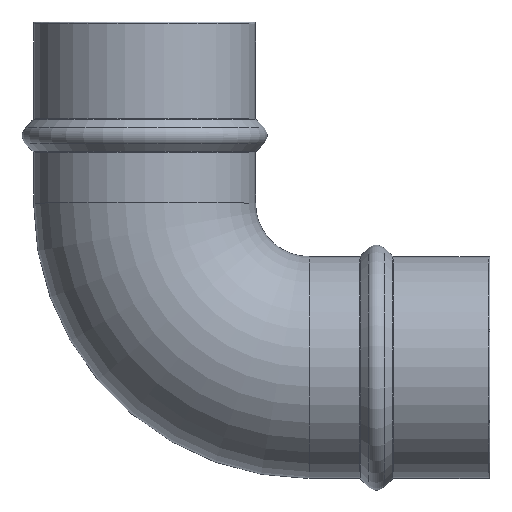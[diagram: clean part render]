
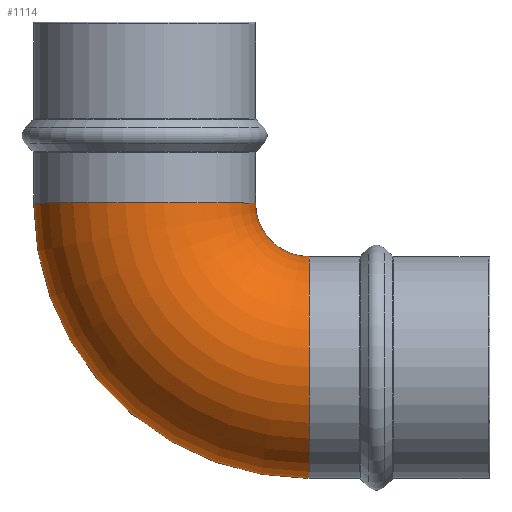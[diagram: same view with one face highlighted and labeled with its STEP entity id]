
A CAD part, top view. The second image highlights one B-rep face of the part: STEP entity #1114.
In plain terms, the highlighted toroidal (fillet/blend) face has major radius 50 mm and minor radius 33.75 mm.
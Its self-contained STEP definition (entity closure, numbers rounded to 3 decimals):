
#193=CARTESIAN_POINT('',(50.,0.,0.));
#194=DIRECTION('',(1.,0.,0.));
#195=DIRECTION('',(0.,1.,0.));
#196=AXIS2_PLACEMENT_3D('',#193,#194,#195);
#301=CARTESIAN_POINT('',(50.,50.,0.));
#302=DIRECTION('',(0.,0.,1.));
#303=DIRECTION('',(-1.,0.,0.));
#304=AXIS2_PLACEMENT_3D('',#301,#302,#303);
#401=CARTESIAN_POINT('',(0.,50.,0.));
#402=DIRECTION('',(0.,-1.,0.));
#403=DIRECTION('',(1.,0.,0.));
#404=AXIS2_PLACEMENT_3D('',#401,#402,#403);
#409=CARTESIAN_POINT('',(50.,50.,0.));
#410=DIRECTION('',(0.,0.,1.));
#411=DIRECTION('',(-1.,0.,0.));
#412=AXIS2_PLACEMENT_3D('',#409,#410,#411);
#685=CARTESIAN_POINT('',(33.75,50.,0.));
#686=CARTESIAN_POINT('',(-33.75,50.,0.));
#687=VERTEX_POINT('',#685);
#688=VERTEX_POINT('',#686);
#693=CARTESIAN_POINT('',(50.,33.75,0.));
#694=CARTESIAN_POINT('',(50.,-33.75,0.));
#695=VERTEX_POINT('',#693);
#696=VERTEX_POINT('',#694);
#1103=CARTESIAN_POINT('',(50.,50.,0.));
#1104=DIRECTION('',(0.,0.,1.));
#1105=DIRECTION('',(1.,0.,0.));
#1106=AXIS2_PLACEMENT_3D('',#1103,#1104,#1105);
#1107=TOROIDAL_SURFACE('',#1106,50.,33.75);
#1108=ORIENTED_EDGE('',*,*,#1083,.F.);
#1109=ORIENTED_EDGE('',*,*,#1011,.T.);
#1110=ORIENTED_EDGE('',*,*,#924,.T.);
#1111=ORIENTED_EDGE('',*,*,#1008,.F.);
#1112=EDGE_LOOP('',(#1108,#1109,#1110,#1111));
#1113=FACE_OUTER_BOUND('',#1112,.F.);
#197=CIRCLE('',#196,33.75);
#305=CIRCLE('',#304,83.75);
#405=CIRCLE('',#404,33.75);
#413=CIRCLE('',#412,16.25);
#924=EDGE_CURVE('',#695,#696,#197,.T.);
#1008=EDGE_CURVE('',#688,#696,#305,.T.);
#1011=EDGE_CURVE('',#687,#695,#413,.T.);
#1083=EDGE_CURVE('',#687,#688,#405,.T.);
#1114=ADVANCED_FACE('',(#1113),#1107,.T.);
